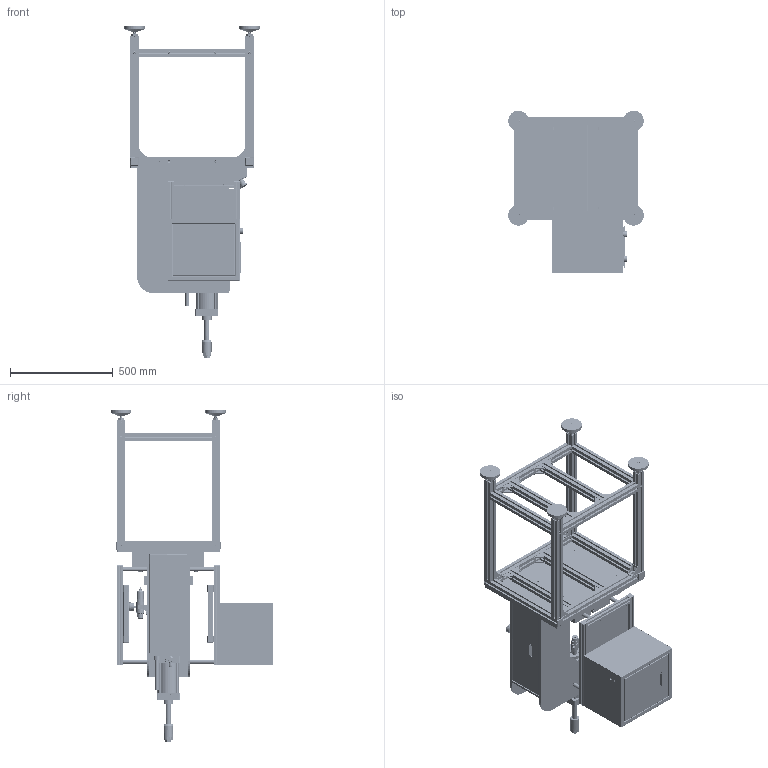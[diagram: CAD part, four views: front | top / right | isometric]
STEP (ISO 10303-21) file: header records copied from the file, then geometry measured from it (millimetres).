
FILE_DESCRIPTION((''),'2;1');
FILE_NAME('ZHENJI_ASM','2026-06-03T13:44:59',('zxb27'),(''),'CREO PARAMETRIC BY PTC INC, 2022164','CREO PARAMETRIC BY PTC INC, 2022164','');
FILE_SCHEMA(('AUTOMOTIVE_DESIGN { 1 0 10303 214 1 1 1 1 }'));
Products named in the file (1): ZHENJI_ASM
Bounding box: 660 x 790 x 1616.5 mm (x, y, z)
Surface area: 9216061.6 mm2 (no closed solid volume)
Topology: 0 solids, 184 shells, 9297 faces, 25381 edges, 16179 vertices
Faces by surface type: plane 6031, cylinder 2304, cone 426, bspline 374, torus 104, sphere 40, extrusion 18
Entity records: 470350 total; most frequent: CARTESIAN_POINT 182089, ORIENTED_EDGE 50204, DIRECTION 46236, EDGE_CURVE 25286, VECTOR 17698, LINE 17680, VERTEX_POINT 16179, AXIS2_PLACEMENT_3D 14269
